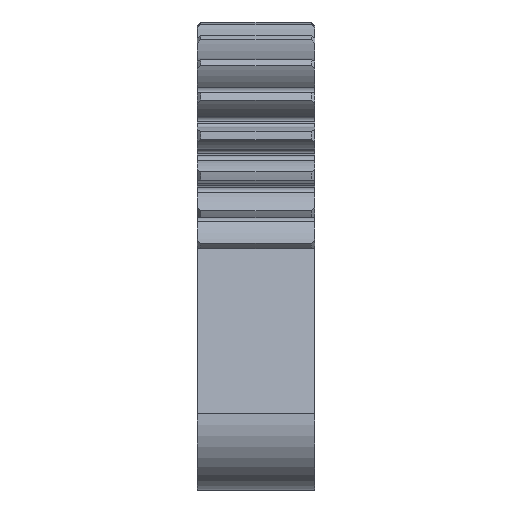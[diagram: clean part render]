
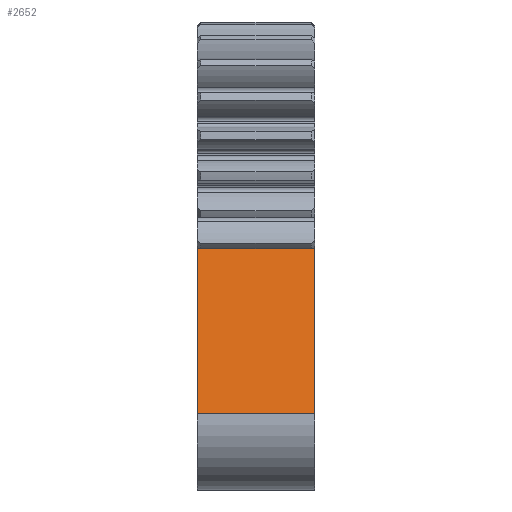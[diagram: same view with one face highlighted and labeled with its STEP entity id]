
A CAD part, left-side view. The second image highlights one B-rep face of the part: STEP entity #2652.
In plain terms, the highlighted planar face has unit normal (-0.985, 0, 0.174).
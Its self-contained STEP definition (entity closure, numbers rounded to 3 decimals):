
#37=PLANE('',#3009);
#39=LINE('',#3865,#179);
#174=LINE('',#4862,#314);
#177=LINE('',#4877,#317);
#178=LINE('',#4878,#318);
#179=VECTOR('',#3023,10.);
#314=VECTOR('',#3818,10.);
#317=VECTOR('',#3835,10.);
#318=VECTOR('',#3836,10.);
#542=FACE_OUTER_BOUND('',#684,.T.);
#684=EDGE_LOOP('',(#2368,#2369,#2370,#2371,#2372,#2373));
#961=(
BOUNDED_CURVE()
B_SPLINE_CURVE(2,(#3847,#3848,#3849),.UNSPECIFIED.,.F.,.F.)
B_SPLINE_CURVE_WITH_KNOTS((3,3),(0.03,0.052),
 .UNSPECIFIED.)
CURVE()
GEOMETRIC_REPRESENTATION_ITEM()
RATIONAL_B_SPLINE_CURVE((1.,1.,1.))
REPRESENTATION_ITEM('')
);
#962=(
BOUNDED_CURVE()
B_SPLINE_CURVE(2,(#3874,#3875,#3876),.UNSPECIFIED.,.F.,.F.)
B_SPLINE_CURVE_WITH_KNOTS((3,3),(0.,0.022),.UNSPECIFIED.)
CURVE()
GEOMETRIC_REPRESENTATION_ITEM()
RATIONAL_B_SPLINE_CURVE((1.,1.,1.))
REPRESENTATION_ITEM('')
);
#963=VERTEX_POINT('',#3845);
#964=VERTEX_POINT('',#3846);
#968=VERTEX_POINT('',#3864);
#970=VERTEX_POINT('',#3873);
#1233=VERTEX_POINT('',#4860);
#1238=VERTEX_POINT('',#4876);
#1239=EDGE_CURVE('',#963,#964,#961,.T.);
#1244=EDGE_CURVE('',#968,#963,#39,.T.);
#1247=EDGE_CURVE('',#970,#968,#962,.T.);
#1643=EDGE_CURVE('',#1233,#964,#174,.T.);
#1650=EDGE_CURVE('',#1238,#1233,#177,.T.);
#1651=EDGE_CURVE('',#970,#1238,#178,.T.);
#2368=ORIENTED_EDGE('',*,*,#1239,.T.);
#2369=ORIENTED_EDGE('',*,*,#1643,.F.);
#2370=ORIENTED_EDGE('',*,*,#1650,.F.);
#2371=ORIENTED_EDGE('',*,*,#1651,.F.);
#2372=ORIENTED_EDGE('',*,*,#1247,.T.);
#2373=ORIENTED_EDGE('',*,*,#1244,.T.);
#2652=ADVANCED_FACE('',(#542),#37,.T.);
#3009=AXIS2_PLACEMENT_3D('',#4875,#3833,#3834);
#3023=DIRECTION('',(0.,1.,0.));
#3818=DIRECTION('',(0.174,0.,0.985));
#3833=DIRECTION('center_axis',(-0.985,0.,
0.174));
#3834=DIRECTION('ref_axis',(-0.174,0.,-0.985));
#3835=DIRECTION('',(0.,1.,0.));
#3836=DIRECTION('',(-0.174,0.,-0.985));
#3845=CARTESIAN_POINT('',(2.883,-345.642,66.076));
#3846=CARTESIAN_POINT('',(2.912,-345.5,66.238));
#3847=CARTESIAN_POINT('Ctrl Pts',(2.883,-345.642,66.076));
#3848=CARTESIAN_POINT('Ctrl Pts',(2.898,-345.57,66.157));
#3849=CARTESIAN_POINT('Ctrl Pts',(2.912,-345.5,66.238));
#3864=CARTESIAN_POINT('',(2.883,-355.358,66.076));
#3865=CARTESIAN_POINT('',(2.883,-345.5,66.076));
#3873=CARTESIAN_POINT('',(2.912,-355.5,66.238));
#3874=CARTESIAN_POINT('Ctrl Pts',(2.912,-355.5,66.238));
#3875=CARTESIAN_POINT('Ctrl Pts',(2.898,-355.43,66.157));
#3876=CARTESIAN_POINT('Ctrl Pts',(2.883,-355.358,66.076));
#4860=CARTESIAN_POINT('',(0.406,-345.5,52.026));
#4862=CARTESIAN_POINT('',(0.406,-345.5,52.026));
#4875=CARTESIAN_POINT('Origin',(4.499,-350.5,75.236));
#4876=CARTESIAN_POINT('',(0.406,-355.5,52.026));
#4877=CARTESIAN_POINT('',(0.406,-350.5,52.026));
#4878=CARTESIAN_POINT('',(0.406,-355.5,52.026));
